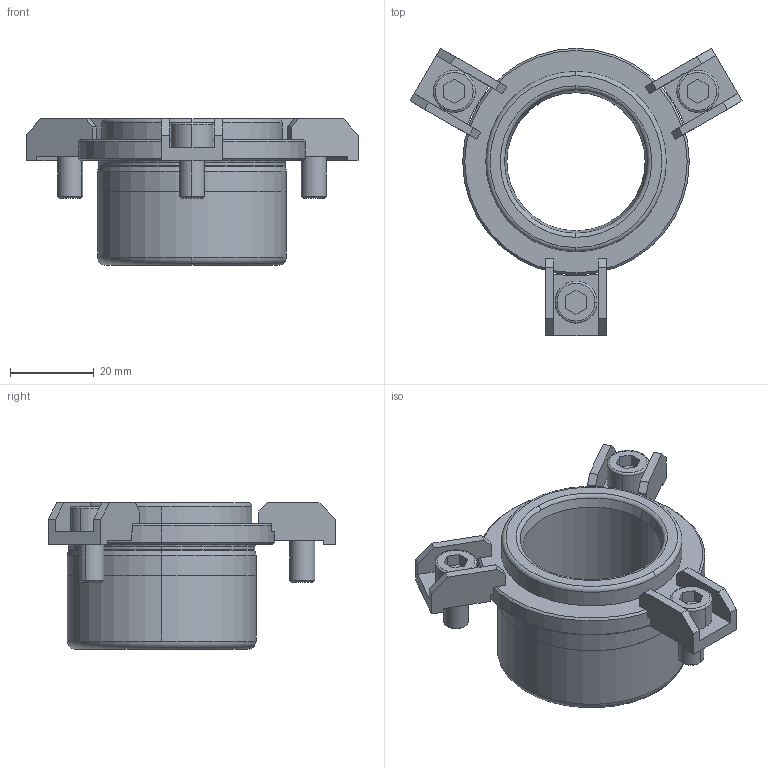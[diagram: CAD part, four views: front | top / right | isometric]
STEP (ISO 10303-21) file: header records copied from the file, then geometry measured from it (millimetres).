
FILE_DESCRIPTION((''),'2;1');
FILE_NAME('B42_025_025.stp','2008-11-04T14:21:53',(''),(''),'Mechanical Desktop 2009','Mechanical Desktop 2009',', , ');
FILE_SCHEMA(('CONFIG_CONTROL_DESIGN'));
Length unit declared in the file: millimetre
Products named in the file (2): Product; blmdl1
Assembly tree (1 placements, depth 2):
  Product
    blmdl1
Bounding box: 79.13 x 68.53 x 35 mm (x, y, z)
Volume: 32758.4 mm3; surface area: 16149.5 mm2
Topology: 7 solids, 7 shells, 185 faces, 474 edges, 312 vertices
Faces by surface type: plane 104, cylinder 39, cone 18, torus 14, bspline 10
Entity records: 6165 total; most frequent: CARTESIAN_POINT 1413, DIRECTION 1008, ORIENTED_EDGE 948, EDGE_CURVE 474, AXIS2_PLACEMENT_3D 357, VERTEX_POINT 312, VECTOR 294, LINE 294
